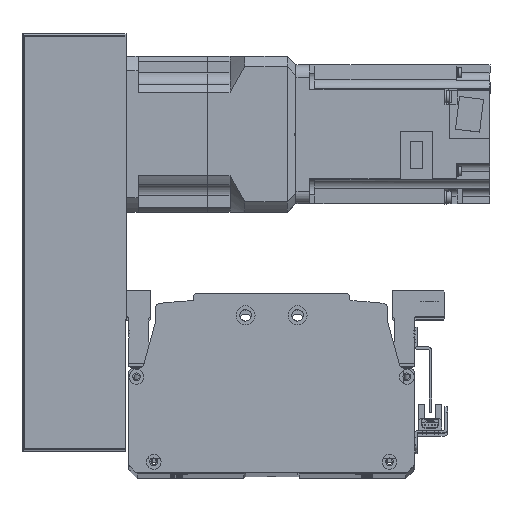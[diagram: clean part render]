
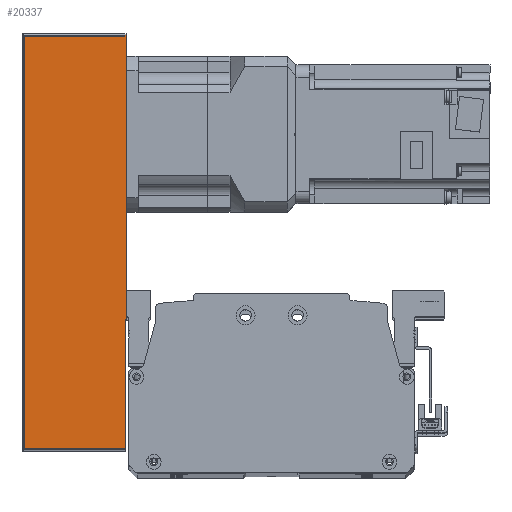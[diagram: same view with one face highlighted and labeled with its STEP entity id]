
A CAD part, top view. The second image highlights one B-rep face of the part: STEP entity #20337.
In plain terms, the highlighted planar face has unit normal (0, 0, 1) as drawn and (0, -1, 0) by its records, which use the part's own axes.
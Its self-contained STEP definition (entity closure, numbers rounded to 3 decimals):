
#607=PLANE('',#22207);
#1728=LINE('',#32715,#3388);
#1751=LINE('',#32802,#3411);
#1752=LINE('',#32810,#3412);
#1760=LINE('',#32836,#3420);
#3388=VECTOR('',#26491,10.);
#3411=VECTOR('',#26602,10.);
#3412=VECTOR('',#26613,10.);
#3420=VECTOR('',#26649,10.);
#5456=FACE_OUTER_BOUND('',#6936,.T.);
#6936=EDGE_LOOP('',(#16542,#16543,#16544,#16545));
#9852=VERTEX_POINT('',#32712);
#9853=VERTEX_POINT('',#32714);
#9873=VERTEX_POINT('',#32798);
#9874=VERTEX_POINT('',#32804);
#12235=EDGE_CURVE('',#9852,#9853,#1728,.T.);
#12280=EDGE_CURVE('',#9853,#9873,#1751,.T.);
#12284=EDGE_CURVE('',#9874,#9852,#1752,.T.);
#12298=EDGE_CURVE('',#9873,#9874,#1760,.T.);
#16542=ORIENTED_EDGE('',*,*,#12280,.F.);
#16543=ORIENTED_EDGE('',*,*,#12235,.F.);
#16544=ORIENTED_EDGE('',*,*,#12284,.F.);
#16545=ORIENTED_EDGE('',*,*,#12298,.F.);
#20337=ADVANCED_FACE('',(#5456),#607,.T.);
#22207=AXIS2_PLACEMENT_3D('',#32841,#26658,#26659);
#26491=DIRECTION('',(1.,0.,0.));
#26602=DIRECTION('',(0.,0.,-1.));
#26613=DIRECTION('',(0.,0.,1.));
#26649=DIRECTION('',(-1.,0.,0.));
#26658=DIRECTION('center_axis',(0.,-1.,0.));
#26659=DIRECTION('ref_axis',(1.,0.,0.));
#32712=CARTESIAN_POINT('',(-119.5,-51.,30.));
#32714=CARTESIAN_POINT('',(119.5,-51.,30.));
#32715=CARTESIAN_POINT('',(120.5,-51.,30.));
#32798=CARTESIAN_POINT('',(119.5,-51.,-29.));
#32802=CARTESIAN_POINT('',(119.5,-51.,0.));
#32804=CARTESIAN_POINT('',(-119.5,-51.,-29.));
#32810=CARTESIAN_POINT('',(-119.5,-51.,0.));
#32836=CARTESIAN_POINT('',(-60.25,-51.,-29.));
#32841=CARTESIAN_POINT('Origin',(-120.5,-51.,0.));
